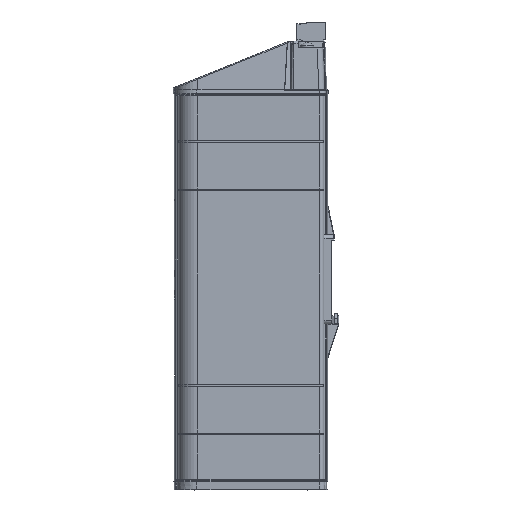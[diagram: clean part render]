
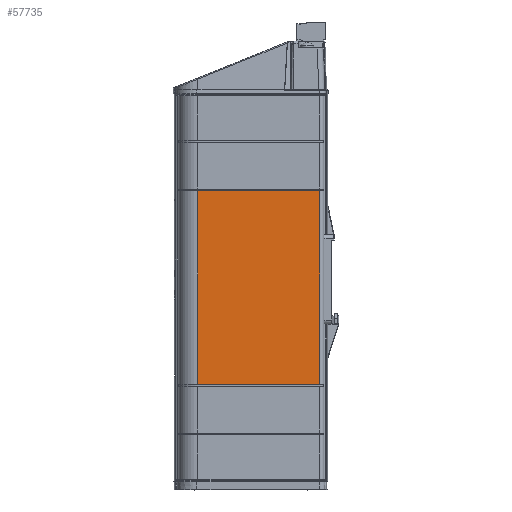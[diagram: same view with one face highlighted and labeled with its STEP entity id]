
A CAD part, left-side view. The second image highlights one B-rep face of the part: STEP entity #57735.
In plain terms, the highlighted planar face has unit normal (-1, 0, 0) as drawn and (0, 1, 0) by its records, which use the part's own axes.
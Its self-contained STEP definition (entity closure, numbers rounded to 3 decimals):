
#2129 = CARTESIAN_POINT ( 'NONE',  ( 2., 24.6, 100. ) ) ;
#3184 = FACE_OUTER_BOUND ( 'NONE', #35387, .T. ) ;
#3275 = EDGE_CURVE ( 'NONE', #32321, #44453, #47721, .T. ) ;
#3502 = DIRECTION ( 'NONE',  ( 0., 0., -1. ) ) ;
#16504 = VECTOR ( 'NONE', #45412, 1000. ) ;
#16909 = CARTESIAN_POINT ( 'NONE',  ( 2., 24.6, 0. ) ) ;
#18263 = LINE ( 'NONE', #45537, #29383 ) ;
#20009 = EDGE_CURVE ( 'NONE', #55531, #32321, #18263, .T. ) ;
#20220 = CARTESIAN_POINT ( 'NONE',  ( 65., 24.6, 0. ) ) ;
#23579 = CARTESIAN_POINT ( 'NONE',  ( 2., 24.6, 0. ) ) ;
#28136 = VECTOR ( 'NONE', #52431, 1000. ) ;
#29383 = VECTOR ( 'NONE', #3502, 1000. ) ;
#30512 = CARTESIAN_POINT ( 'NONE',  ( 65., 24.6, 100. ) ) ;
#32249 = CARTESIAN_POINT ( 'NONE',  ( 65., 24.6, 100. ) ) ;
#32321 = VERTEX_POINT ( 'NONE', #20220 ) ;
#35387 = EDGE_LOOP ( 'NONE', ( #43602, #42612, #43533, #56202 ) ) ;
#37219 = VECTOR ( 'NONE', #40246, 1000. ) ;
#40246 = DIRECTION ( 'NONE',  ( 1., 0., 0. ) ) ;
#40598 = EDGE_CURVE ( 'NONE', #60202, #55531, #59609, .T. ) ;
#41776 = DIRECTION ( 'NONE',  ( 0., 1., 0. ) ) ;
#42612 = ORIENTED_EDGE ( 'NONE', *, *, #40598, .T. ) ;
#42680 = AXIS2_PLACEMENT_3D ( 'NONE', #46462, #41776, #60843 ) ;
#43533 = ORIENTED_EDGE ( 'NONE', *, *, #20009, .T. ) ;
#43542 = EDGE_CURVE ( 'NONE', #60202, #44453, #45096, .T. ) ;
#43602 = ORIENTED_EDGE ( 'NONE', *, *, #43542, .F. ) ;
#44453 = VERTEX_POINT ( 'NONE', #16909 ) ;
#45096 = LINE ( 'NONE', #2129, #16504 ) ;
#45412 = DIRECTION ( 'NONE',  ( 0., 0., -1. ) ) ;
#45537 = CARTESIAN_POINT ( 'NONE',  ( 65., 24.6, 100. ) ) ;
#46462 = CARTESIAN_POINT ( 'NONE',  ( 2., 24.6, 100. ) ) ;
#47721 = LINE ( 'NONE', #23579, #28136 ) ;
#48884 = CARTESIAN_POINT ( 'NONE',  ( 2., 24.6, 100. ) ) ;
#51159 = PLANE ( 'NONE',  #42680 ) ;
#52431 = DIRECTION ( 'NONE',  ( -1., 0., 0. ) ) ;
#55531 = VERTEX_POINT ( 'NONE', #32249 ) ;
#56202 = ORIENTED_EDGE ( 'NONE', *, *, #3275, .T. ) ;
#57735 = ADVANCED_FACE ( 'NONE', ( #3184 ), #51159, .T. ) ;
#59609 = LINE ( 'NONE', #30512, #37219 ) ;
#60202 = VERTEX_POINT ( 'NONE', #48884 ) ;
#60843 = DIRECTION ( 'NONE',  ( -1., 0., 0. ) ) ;
